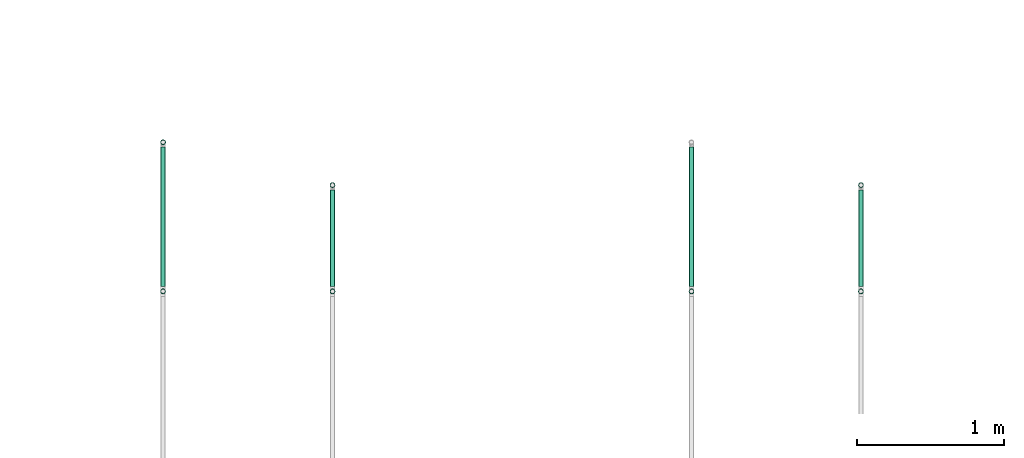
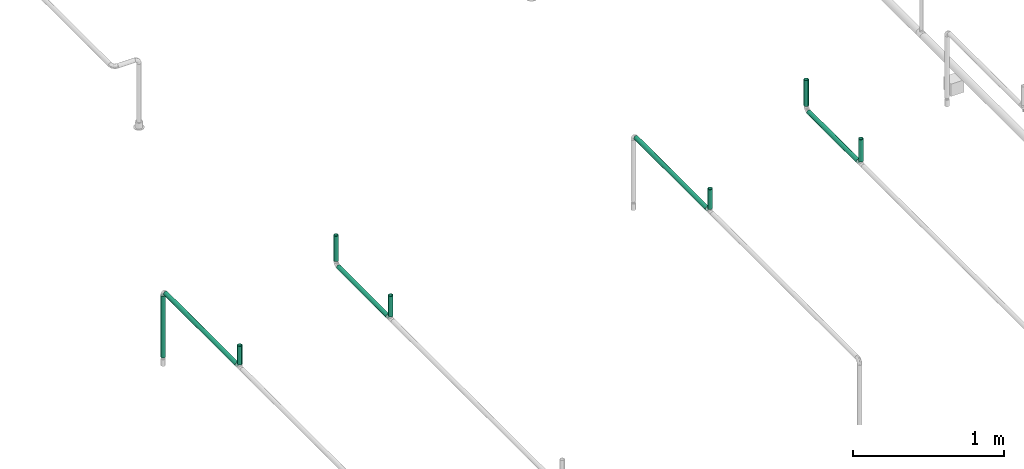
# One storey, part 13 of 95: 11 flow segments.
"""IFC2X3 building model written with IfcOpenShell, lengths in millimetres."""

from ifc_helpers import new_model, entity, si_unit, converted_unit, derived_unit, direction, frame, origin_with_axes, origin_2d_with_axis, place, context, subcontext, project, spatial, hollow_circle, extrude, source, transform, mapped, type_object, element, save


model = new_model("IFC2X3")

# Units and contexts
model_context = context("Model", 3, precision=0.01, world=frame((0.0, 4.29681676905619e-09, 0.0)), true_north=direction((4.01073788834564e-13, 1.0)))
plan_context = context("Plan", 3, precision=0.01, world=frame((0.0, 4.29681676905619e-09, 0.0)), true_north=direction((4.01073788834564e-13, 1.0)))
body_context = subcontext(model_context, "Body", "Model", "MODEL_VIEW")
ifc_project = project(units=[converted_unit("PLANEANGLEUNIT", "DEGREE", entity("IfcPositiveLengthMeasure", 0.0174532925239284), si_unit("PLANEANGLEUNIT", "RADIAN"), dimensions=[0, 0, 0, 0, 0, 0, 0]), si_unit("AREAUNIT", "SQUARE_METRE"), si_unit("LENGTHUNIT", "METRE", prefix="MILLI"), si_unit("MASSUNIT", "GRAM", prefix="KILO"), si_unit("POWERUNIT", "WATT"), si_unit("PRESSUREUNIT", "PASCAL"), si_unit("FORCEUNIT", "NEWTON", prefix="KILO"), si_unit("ELECTRICVOLTAGEUNIT", "VOLT"), si_unit("ELECTRICCURRENTUNIT", "AMPERE"), si_unit("THERMODYNAMICTEMPERATUREUNIT", "DEGREE_CELSIUS"), si_unit("TIMEUNIT", "SECOND"), si_unit("VOLUMEUNIT", "CUBIC_METRE"), derived_unit("LINEARVELOCITYUNIT", [(si_unit("LENGTHUNIT", "METRE"), 1), (si_unit("TIMEUNIT", "SECOND"), -1)]), derived_unit("VOLUMETRICFLOWRATEUNIT", [(si_unit("VOLUMEUNIT", "CUBIC_METRE"), 1), (si_unit("TIMEUNIT", "SECOND"), -1)]), derived_unit("THERMALTRANSMITTANCEUNIT", [(si_unit("POWERUNIT", "WATT"), 1), (si_unit("THERMODYNAMICTEMPERATUREUNIT", "KELVIN"), -1), (si_unit("AREAUNIT", "SQUARE_METRE"), -1)]), derived_unit("SOUNDPRESSUREUNIT", [(si_unit("PRESSUREUNIT", "PASCAL"), 1)])], contexts=[model_context, plan_context])

# Site, building, storey
site_placement = place(None, frame((0.0, -4.29681676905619e-09, 0.0), z_axis=(0.0, 0.0, 1.0), x_axis=(1.0, 0.0, 0.0)))
site = spatial("IfcSite", under=ifc_project, at=site_placement, CompositionType="ELEMENT")
building_placement = place(site_placement, frame((0.0, 4.29681676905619e-09, 0.0), z_axis=(0.0, 0.0, 1.0), x_axis=(1.0, 0.0, 0.0)))
building = spatial("IfcBuilding", under=site, at=building_placement, Name="mc-building", CompositionType="ELEMENT")
storey_placement = place(building_placement, frame((0.0, 0.0, 210900.0), z_axis=(0.0, 0.0, 1.0), x_axis=(1.0, 0.0, 0.0)))
storey = spatial("IfcBuildingStorey", under=building, at=storey_placement, Name="Nivå F", CompositionType="ELEMENT", Elevation=210900.0)

# Flow segments
pipe_segment_type = type_object("IfcPipeSegmentType", Name="Stålrør normaltykke", PredefinedType="RIGIDSEGMENT")
shared_shape_1 = source(origin_with_axes(), body_context, "Body", "SweptSolid", [
    extrude(hollow_circle(Radius=16.9, WallThickness=2.0, at=origin_2d_with_axis()), frame((0.0, 0.0, 0.0), z_axis=(1.0, 0.0, 0.0), x_axis=(0.0, 1.0, 0.0)), (0.0, 0.0, 1.0), 656.5),
])
for number, where, z_axis, x_axis in (
    (1, (531053.43639, 446882.08295, 4294.38553), (0.0, 0.0, 1.0), (0.0, -1.0, 0.0)),
    (2, (534653.43639, 446882.08295, 4287.98254), (0.0, 0.0, 1.0), (0.0, -1.0, 0.0)),
):
    element("IfcFlowSegment", number, at=place(storey_placement, frame(where, z_axis=z_axis, x_axis=x_axis)), inside=storey, type_object=pipe_segment_type, Name="Stålrør normaltykke", context=body_context, shape_type="MappedRepresentation", body=[
        mapped(shared_shape_1, transform((0.0, 0.0, 0.0), scale=1.0)),
    ])
shared_shape_2 = source(origin_with_axes(), body_context, "Body", "SweptSolid", [
    extrude(hollow_circle(Radius=16.9, WallThickness=2.0, at=origin_2d_with_axis()), frame((0.0, 0.0, 0.0), z_axis=(1.0, 0.0, 0.0), x_axis=(0.0, 1.0, 0.0)), (0.0, 0.0, 1.0), 204.5),
])
flow_segment_1_placement = place(storey_placement, frame((531053.43639, 446915.88295, 4532.64799999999), z_axis=(0.0, 1.0, 0.0), x_axis=(0.0, 0.0, -1.0)))
element("IfcFlowSegment", 3, at=flow_segment_1_placement, inside=storey, type_object=pipe_segment_type, Name="Stålrør normaltykke", context=body_context, shape_type="MappedRepresentation", body=[
    mapped(shared_shape_2, transform((0.0, 0.0, 0.0), scale=1.0)),
])
shared_shape_3 = source(origin_with_axes(), body_context, "Body", "SweptSolid", [
    extrude(hollow_circle(Radius=16.9, WallThickness=2.0, at=origin_2d_with_axis()), frame((0.0, 0.0, 0.0), z_axis=(1.0, 0.0, 0.0), x_axis=(0.0, 1.0, 0.0)), (0.0, 0.0, 1.0), 210.9),
])
flow_segment_2_placement = place(storey_placement, frame((534653.43639, 446915.88295, 4532.64799999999), z_axis=(0.0, 1.0, 0.0), x_axis=(0.0, 0.0, -1.0)))
element("IfcFlowSegment", 4, at=flow_segment_2_placement, inside=storey, type_object=pipe_segment_type, Name="Stålrør normaltykke", context=body_context, shape_type="MappedRepresentation", body=[
    mapped(shared_shape_3, transform((0.0, 0.0, 0.0), scale=1.0)),
])
shared_shape_4 = source(origin_with_axes(), body_context, "Body", "SweptSolid", [
    extrude(hollow_circle(Radius=16.9, WallThickness=2.0, at=origin_2d_with_axis()), frame((0.0, 0.0, 0.0), z_axis=(1.0, 0.0, 0.0), x_axis=(0.0, 1.0, 0.0)), (0.0, 0.0, 1.0), 166.1),
])
flow_segment_3_placement = place(storey_placement, frame((531053.43639, 446191.7762, 4319.73553000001), z_axis=(-1.0, 0.0, 0.0), x_axis=(0.0, 0.0, 1.0)))
element("IfcFlowSegment", 5, at=flow_segment_3_placement, inside=storey, type_object=pipe_segment_type, Name="Stålrør normaltykke", context=body_context, shape_type="MappedRepresentation", body=[
    mapped(shared_shape_4, transform((0.0, 0.0, 0.0), scale=1.0)),
])
shared_shape_5 = source(origin_with_axes(), body_context, "Body", "SweptSolid", [
    extrude(hollow_circle(Radius=16.9, WallThickness=2.0, at=origin_2d_with_axis()), frame((0.0, 0.0, 0.0), z_axis=(1.0, 0.0, 0.0), x_axis=(0.0, 1.0, 0.0)), (0.0, 0.0, 1.0), 178.9),
])
flow_segment_4_placement = place(storey_placement, frame((534653.43639, 446191.7762, 4313.33254), z_axis=(-1.0, 0.0, 0.0), x_axis=(0.0, 0.0, 1.0)))
element("IfcFlowSegment", 6, at=flow_segment_4_placement, inside=storey, type_object=pipe_segment_type, Name="Stålrør normaltykke", context=body_context, shape_type="MappedRepresentation", body=[
    mapped(shared_shape_5, transform((0.0, 0.0, 0.0), scale=1.0)),
])
shared_shape_6 = source(origin_with_axes(), body_context, "Body", "SweptSolid", [
    extrude(hollow_circle(Radius=16.9, WallThickness=2.0, at=origin_2d_with_axis()), frame((0.0, 0.0, 0.0), z_axis=(1.0, 0.0, 0.0), x_axis=(0.0, 1.0, 0.0)), (0.0, 0.0, 1.0), 499.1),
])
flow_segment_5_placement = place(storey_placement, frame((529898.68266, 447207.85, 3775.348), z_axis=(-1.0, 0.0, 0.0), x_axis=(0.0, 0.0, 1.0)))
element("IfcFlowSegment", 7, at=flow_segment_5_placement, inside=storey, type_object=pipe_segment_type, Name="Stålrør normaltykke", context=body_context, shape_type="MappedRepresentation", body=[
    mapped(shared_shape_6, transform((0.0, 0.0, 0.0), scale=1.0)),
])
shared_shape_7 = source(origin_with_axes(), body_context, "Body", "SweptSolid", [
    extrude(hollow_circle(Radius=16.9, WallThickness=2.0, at=origin_2d_with_axis()), frame((0.0, 0.0, 0.0), z_axis=(1.0, 0.0, 0.0), x_axis=(0.0, 1.0, 0.0)), (0.0, 0.0, 1.0), 948.5),
])
for number, where, z_axis, x_axis in (
    (8, (529898.68266, 447174.05, 4308.26618000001), (0.0, 0.0, 1.0), (0.0, -1.0, 0.0)),
    (9, (533498.68266, 447174.05, 4308.26618000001), (0.0, 0.0, 1.0), (0.0, -1.0, 0.0)),
):
    element("IfcFlowSegment", number, at=place(storey_placement, frame(where, z_axis=z_axis, x_axis=x_axis)), inside=storey, type_object=pipe_segment_type, Name="Stålrør normaltykke", context=body_context, shape_type="MappedRepresentation", body=[
        mapped(shared_shape_7, transform((0.0, 0.0, 0.0), scale=1.0)),
    ])
shared_shape_8 = source(origin_with_axes(), body_context, "Body", "SweptSolid", [
    extrude(hollow_circle(Radius=16.9, WallThickness=2.0, at=origin_2d_with_axis()), frame((0.0, 0.0, 0.0), z_axis=(1.0, 0.0, 0.0), x_axis=(0.0, 1.0, 0.0)), (0.0, 0.0, 1.0), 152.2),
])
flow_segment_6_placement = place(storey_placement, frame((529898.68266, 446191.7762, 4485.79904000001), z_axis=(0.0, 1.0, 0.0), x_axis=(0.0, 0.0, -1.0)))
element("IfcFlowSegment", 10, at=flow_segment_6_placement, inside=storey, type_object=pipe_segment_type, Name="Stålrør normaltykke", context=body_context, shape_type="MappedRepresentation", body=[
    mapped(shared_shape_8, transform((0.0, 0.0, 0.0), scale=1.0)),
])
shared_shape_9 = source(origin_with_axes(), body_context, "Body", "SweptSolid", [
    extrude(hollow_circle(Radius=16.9, WallThickness=2.0, at=origin_2d_with_axis()), frame((0.0, 0.0, 0.0), z_axis=(1.0, 0.0, 0.0), x_axis=(0.0, 1.0, 0.0)), (0.0, 0.0, 1.0), 158.6),
])
flow_segment_7_placement = place(storey_placement, frame((533498.68266, 446191.7762, 4333.61618000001), z_axis=(0.0, 1.0, 0.0), x_axis=(0.0, 0.0, 1.0)))
element("IfcFlowSegment", 11, at=flow_segment_7_placement, inside=storey, type_object=pipe_segment_type, Name="Stålrør normaltykke", context=body_context, shape_type="MappedRepresentation", body=[
    mapped(shared_shape_9, transform((0.0, 0.0, 0.0), scale=1.0)),
])

save(model, "model.ifc")
